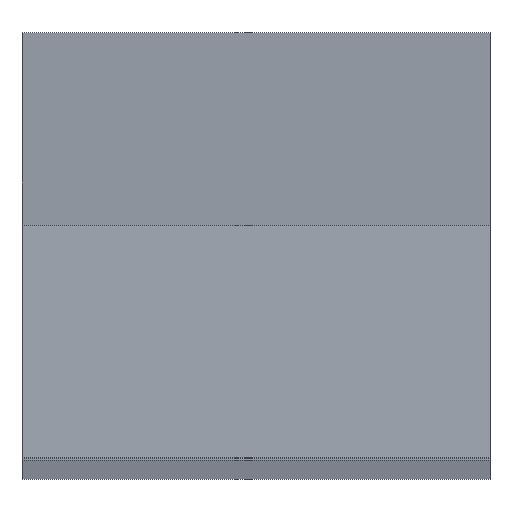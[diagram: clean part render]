
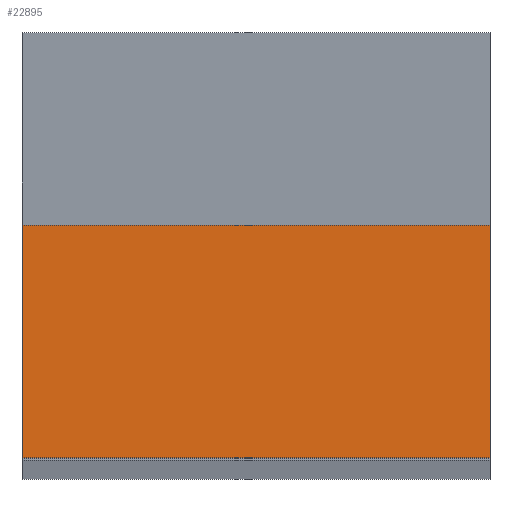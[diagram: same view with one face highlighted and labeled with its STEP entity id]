
A CAD part, top view. The second image highlights one B-rep face of the part: STEP entity #22895.
In plain terms, the highlighted planar face has unit normal (0, 0, 1).
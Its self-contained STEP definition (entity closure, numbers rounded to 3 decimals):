
#72 = PLANE('',#73);
#73 = AXIS2_PLACEMENT_3D('',#74,#75,#76);
#74 = CARTESIAN_POINT('',(19.,-21.459,-100.631));
#75 = DIRECTION('',(-1.,0.,-0.));
#76 = DIRECTION('',(0.,0.,1.));
#126 = PLANE('',#127);
#127 = AXIS2_PLACEMENT_3D('',#128,#129,#130);
#128 = CARTESIAN_POINT('',(-27.,-21.459,-100.631));
#129 = DIRECTION('',(-1.,0.,-0.));
#130 = DIRECTION('',(0.,0.,1.));
#403 = VERTEX_POINT('',#404);
#404 = CARTESIAN_POINT('',(-27.,-21.001,-55.));
#418 = PLANE('',#419);
#419 = AXIS2_PLACEMENT_3D('',#420,#421,#422);
#420 = CARTESIAN_POINT('',(-27.,-21.,-55.));
#421 = DIRECTION('',(-0.,0.049,0.999));
#422 = DIRECTION('',(0.,0.999,-0.049));
#430 = EDGE_CURVE('',#403,#431,#433,.T.);
#431 = VERTEX_POINT('',#432);
#432 = CARTESIAN_POINT('',(-27.,-43.855,-55.));
#433 = SURFACE_CURVE('',#434,(#438,#445),.PCURVE_S1.);
#434 = LINE('',#435,#436);
#435 = CARTESIAN_POINT('',(-27.,-21.001,-55.));
#436 = VECTOR('',#437,1.);
#437 = DIRECTION('',(-0.,-1.,-0.));
#438 = PCURVE('',#126,#439);
#439 = DEFINITIONAL_REPRESENTATION('',(#440),#444);
#440 = LINE('',#441,#442);
#441 = CARTESIAN_POINT('',(45.631,0.458));
#442 = VECTOR('',#443,1.);
#443 = DIRECTION('',(-0.,-1.));
#444 = ( GEOMETRIC_REPRESENTATION_CONTEXT(2) 
PARAMETRIC_REPRESENTATION_CONTEXT() REPRESENTATION_CONTEXT('2D SPACE',''
  ) );
#445 = PCURVE('',#446,#451);
#446 = PLANE('',#447);
#447 = AXIS2_PLACEMENT_3D('',#448,#449,#450);
#448 = CARTESIAN_POINT('',(-27.,-21.001,-55.));
#449 = DIRECTION('',(-0.,-0.,1.));
#450 = DIRECTION('',(0.,1.,0.));
#451 = DEFINITIONAL_REPRESENTATION('',(#452),#456);
#452 = LINE('',#453,#454);
#453 = CARTESIAN_POINT('',(-0.,-0.));
#454 = VECTOR('',#455,1.);
#455 = DIRECTION('',(-1.,0.));
#456 = ( GEOMETRIC_REPRESENTATION_CONTEXT(2) 
PARAMETRIC_REPRESENTATION_CONTEXT() REPRESENTATION_CONTEXT('2D SPACE',''
  ) );
#474 = PLANE('',#475);
#475 = AXIS2_PLACEMENT_3D('',#476,#477,#478);
#476 = CARTESIAN_POINT('',(-27.,-43.855,-55.));
#477 = DIRECTION('',(-0.,0.048,0.999));
#478 = DIRECTION('',(0.,0.999,-0.048));
#12630 = VERTEX_POINT('',#12631);
#12631 = CARTESIAN_POINT('',(19.,-21.001,-55.));
#12652 = EDGE_CURVE('',#12630,#12653,#12655,.T.);
#12653 = VERTEX_POINT('',#12654);
#12654 = CARTESIAN_POINT('',(19.,-43.855,-55.));
#12655 = SURFACE_CURVE('',#12656,(#12660,#12667),.PCURVE_S1.);
#12656 = LINE('',#12657,#12658);
#12657 = CARTESIAN_POINT('',(19.,-21.001,-55.));
#12658 = VECTOR('',#12659,1.);
#12659 = DIRECTION('',(-0.,-1.,-0.));
#12660 = PCURVE('',#72,#12661);
#12661 = DEFINITIONAL_REPRESENTATION('',(#12662),#12666);
#12662 = LINE('',#12663,#12664);
#12663 = CARTESIAN_POINT('',(45.631,0.458));
#12664 = VECTOR('',#12665,1.);
#12665 = DIRECTION('',(-0.,-1.));
#12666 = ( GEOMETRIC_REPRESENTATION_CONTEXT(2) 
PARAMETRIC_REPRESENTATION_CONTEXT() REPRESENTATION_CONTEXT('2D SPACE',''
  ) );
#12667 = PCURVE('',#446,#12668);
#12668 = DEFINITIONAL_REPRESENTATION('',(#12669),#12673);
#12669 = LINE('',#12670,#12671);
#12670 = CARTESIAN_POINT('',(-0.,-46.));
#12671 = VECTOR('',#12672,1.);
#12672 = DIRECTION('',(-1.,0.));
#12673 = ( GEOMETRIC_REPRESENTATION_CONTEXT(2) 
PARAMETRIC_REPRESENTATION_CONTEXT() REPRESENTATION_CONTEXT('2D SPACE',''
  ) );
#22847 = EDGE_CURVE('',#403,#12630,#22848,.T.);
#22848 = SURFACE_CURVE('',#22849,(#22853,#22860),.PCURVE_S1.);
#22849 = LINE('',#22850,#22851);
#22850 = CARTESIAN_POINT('',(-27.,-21.001,-55.));
#22851 = VECTOR('',#22852,1.);
#22852 = DIRECTION('',(1.,-0.,-0.));
#22853 = PCURVE('',#418,#22854);
#22854 = DEFINITIONAL_REPRESENTATION('',(#22855),#22859);
#22855 = LINE('',#22856,#22857);
#22856 = CARTESIAN_POINT('',(-0.001,0.));
#22857 = VECTOR('',#22858,1.);
#22858 = DIRECTION('',(-0.,-1.));
#22859 = ( GEOMETRIC_REPRESENTATION_CONTEXT(2) 
PARAMETRIC_REPRESENTATION_CONTEXT() REPRESENTATION_CONTEXT('2D SPACE',''
  ) );
#22860 = PCURVE('',#446,#22861);
#22861 = DEFINITIONAL_REPRESENTATION('',(#22862),#22866);
#22862 = LINE('',#22863,#22864);
#22863 = CARTESIAN_POINT('',(-0.,-0.));
#22864 = VECTOR('',#22865,1.);
#22865 = DIRECTION('',(-0.,-1.));
#22866 = ( GEOMETRIC_REPRESENTATION_CONTEXT(2) 
PARAMETRIC_REPRESENTATION_CONTEXT() REPRESENTATION_CONTEXT('2D SPACE',''
  ) );
#22895 = ADVANCED_FACE('',(#22896),#446,.T.);
#22896 = FACE_BOUND('',#22897,.F.);
#22897 = EDGE_LOOP('',(#22898,#22899,#22900,#22921));
#22898 = ORIENTED_EDGE('',*,*,#22847,.T.);
#22899 = ORIENTED_EDGE('',*,*,#12652,.T.);
#22900 = ORIENTED_EDGE('',*,*,#22901,.F.);
#22901 = EDGE_CURVE('',#431,#12653,#22902,.T.);
#22902 = SURFACE_CURVE('',#22903,(#22907,#22914),.PCURVE_S1.);
#22903 = LINE('',#22904,#22905);
#22904 = CARTESIAN_POINT('',(-27.,-43.855,-55.));
#22905 = VECTOR('',#22906,1.);
#22906 = DIRECTION('',(1.,-0.,-0.));
#22907 = PCURVE('',#446,#22908);
#22908 = DEFINITIONAL_REPRESENTATION('',(#22909),#22913);
#22909 = LINE('',#22910,#22911);
#22910 = CARTESIAN_POINT('',(-22.854,0.));
#22911 = VECTOR('',#22912,1.);
#22912 = DIRECTION('',(-0.,-1.));
#22913 = ( GEOMETRIC_REPRESENTATION_CONTEXT(2) 
PARAMETRIC_REPRESENTATION_CONTEXT() REPRESENTATION_CONTEXT('2D SPACE',''
  ) );
#22914 = PCURVE('',#474,#22915);
#22915 = DEFINITIONAL_REPRESENTATION('',(#22916),#22920);
#22916 = LINE('',#22917,#22918);
#22917 = CARTESIAN_POINT('',(-0.,-0.));
#22918 = VECTOR('',#22919,1.);
#22919 = DIRECTION('',(-0.,-1.));
#22920 = ( GEOMETRIC_REPRESENTATION_CONTEXT(2) 
PARAMETRIC_REPRESENTATION_CONTEXT() REPRESENTATION_CONTEXT('2D SPACE',''
  ) );
#22921 = ORIENTED_EDGE('',*,*,#430,.F.);
